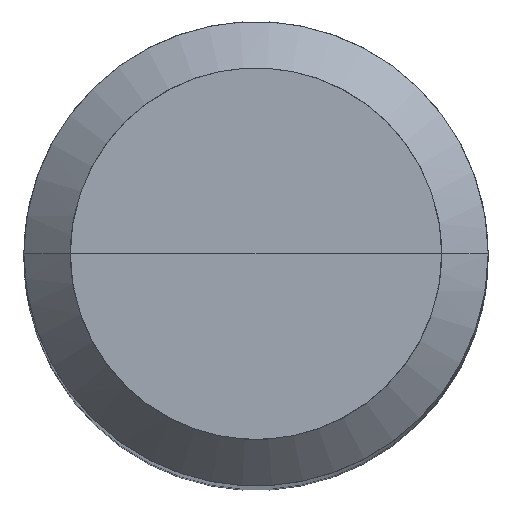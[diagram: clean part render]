
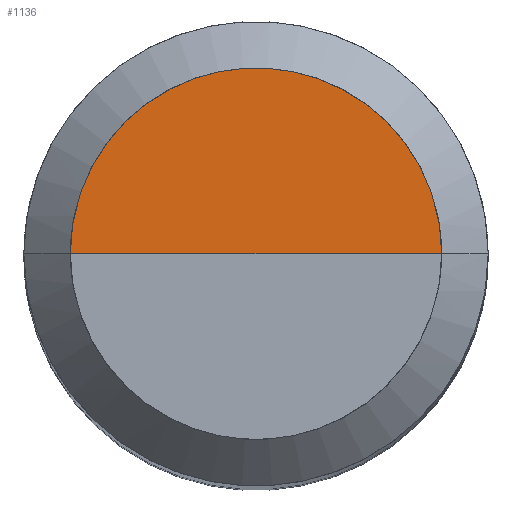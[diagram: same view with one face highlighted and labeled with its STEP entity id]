
A CAD part, top view. The second image highlights one B-rep face of the part: STEP entity #1136.
In plain terms, the highlighted free-form (B-spline) face has degree [1, 2] with [2, 5] control points.
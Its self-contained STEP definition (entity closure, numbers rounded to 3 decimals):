
#937=CARTESIAN_POINT('',(3.2,0.0,33.0));
#938=CARTESIAN_POINT('',(3.2,3.2,33.0));
#939=CARTESIAN_POINT('',(0.0,3.2,33.0));
#940=CARTESIAN_POINT('',(-3.2,3.2,33.0));
#941=CARTESIAN_POINT('',(-3.2,0.0,33.0));
#942=CARTESIAN_POINT('',(0.0,0.0,33.0));
#1121=(
BOUNDED_SURFACE()
B_SPLINE_SURFACE(1,2,(
(#937,#938,#939,#940,#941),
(#942,#942,#942,#942,#942)
), .UNSPECIFIED.,.F.,.F.,.F.)
B_SPLINE_SURFACE_WITH_KNOTS((2,2),(3,2,3),(
0.0,1.0),(
0.0,0.5,1.0), .UNSPECIFIED.)
GEOMETRIC_REPRESENTATION_ITEM()
RATIONAL_B_SPLINE_SURFACE(((1.0,0.707,1.0,0.707,1.0),
(1.0,0.707,1.0,0.707,1.0)
))
REPRESENTATION_ITEM('')
SURFACE()
);
#1122=(
BOUNDED_CURVE()
B_SPLINE_CURVE(2,(#941,#940,#939,#938,#937),.UNSPECIFIED.,.F.,.F.)
B_SPLINE_CURVE_WITH_KNOTS((3,2,3),
(0.0,0.5,1.0),.UNSPECIFIED.)
CURVE()
GEOMETRIC_REPRESENTATION_ITEM()
RATIONAL_B_SPLINE_CURVE((1.0,0.707,1.0,0.707,1.0))
REPRESENTATION_ITEM('')
);
#1123=(
BOUNDED_CURVE()
B_SPLINE_CURVE(1,(#937,#942),.UNSPECIFIED.,.F.,.F.)
B_SPLINE_CURVE_WITH_KNOTS((2,2),
(0.0,1.0),.UNSPECIFIED.)
CURVE()
GEOMETRIC_REPRESENTATION_ITEM()
RATIONAL_B_SPLINE_CURVE((1.0,1.0))
REPRESENTATION_ITEM('')
);
#1124=(
BOUNDED_CURVE()
B_SPLINE_CURVE(1,(#942,#941),.UNSPECIFIED.,.F.,.F.)
B_SPLINE_CURVE_WITH_KNOTS((2,2),
(0.0,1.0),.UNSPECIFIED.)
CURVE()
GEOMETRIC_REPRESENTATION_ITEM()
RATIONAL_B_SPLINE_CURVE((1.0,1.0))
REPRESENTATION_ITEM('')
);
#1125=VERTEX_POINT('',#937);
#1126=VERTEX_POINT('',#941);
#1127=VERTEX_POINT('',#942);
#1128=EDGE_CURVE('',#1126,#1125,#1122,.T.);
#1129=EDGE_CURVE('',#1125,#1127,#1123,.T.);
#1130=EDGE_CURVE('',#1127,#1126,#1124,.T.);
#1131=ORIENTED_EDGE('',*,*,#1128,.T.);
#1132=ORIENTED_EDGE('',*,*,#1129,.T.);
#1133=ORIENTED_EDGE('',*,*,#1130,.T.);
#1134=EDGE_LOOP('',(#1131,#1132,#1133));
#1135=FACE_OUTER_BOUND('',#1134,.T.);
#1136=ADVANCED_FACE('',(#1135),#1121,.T.);
